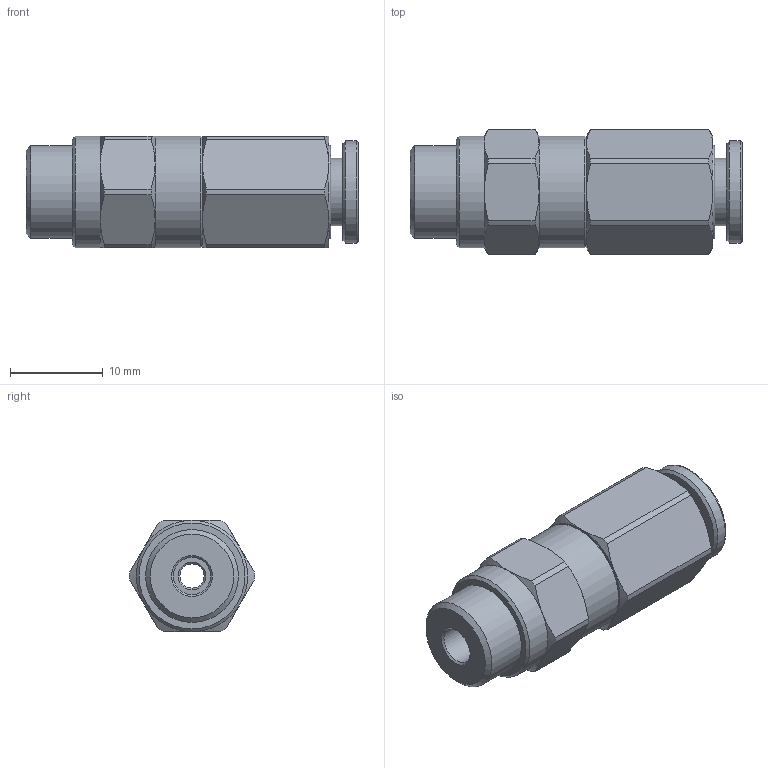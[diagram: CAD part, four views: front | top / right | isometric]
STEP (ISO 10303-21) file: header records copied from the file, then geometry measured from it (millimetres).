
FILE_DESCRIPTION(('STEP AP214'),'1');
FILE_NAME('BVP-10-B21.stp','2026-02-02T08:04:15',(' '),(' '),'Spatial InterOp 3D',' ',' ');
FILE_SCHEMA(('AUTOMOTIVE_DESIGN { 1 0 10303 214 1 1 1 1 }'));
Length unit declared in the file: millimetre
Products named in the file (7): BVP-10-B21; 2; 1; 3; SQC0604:1; SQC0603:1; SQC0602:1
Assembly tree (6 placements, depth 3):
  BVP-10-B21
    2
    1
    3
      SQC0604:1
      SQC0603:1
      SQC0602:1
Bounding box: 35.75 x 13.5 x 12 mm (x, y, z)
Volume: 2828.3 mm3; surface area: 3550.9 mm2
Topology: 5 solids, 5 shells, 333 faces, 920 edges, 611 vertices
Faces by surface type: cone 114, cylinder 109, plane 84, torus 26
Full cylindrical faces by diameter (mm): 2.6 x2, 4 x1, 4.7 x1, 6.25 x1, 6.4 x1, 7 x1, 7.3 x1, 7.5 x1, 7.75 x2, 7.8 x1, 8.1 x2, 9.1 x1, 9.2 x1, 10 x2, 10.1 x1, 10.25 x1, 10.8 x1, 10.9 x1, 11 x1, 12 x2
Entity records: 18330 total; most frequent: CARTESIAN_POINT 3597, ORIENTED_EDGE 1716, DIRECTION 1389, STYLED_ITEM 1192, PRESENTATION_STYLE_ASSIGNMENT 1192, COLOUR_RGB 1192, EDGE_CURVE 858, CURVE_STYLE 855
